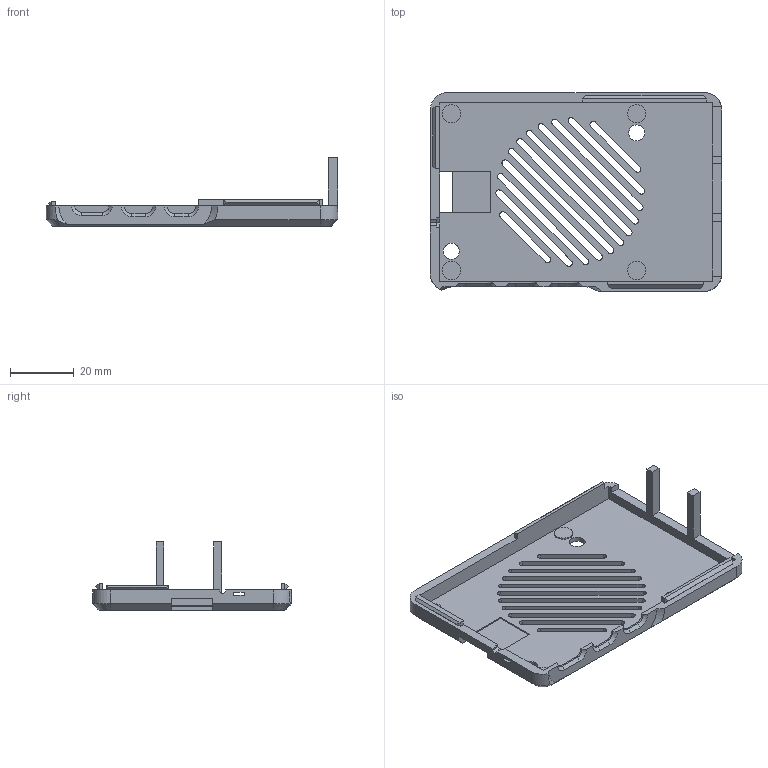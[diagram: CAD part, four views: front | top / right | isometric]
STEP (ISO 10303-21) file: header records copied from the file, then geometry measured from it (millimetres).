
FILE_DESCRIPTION(/* description */ (''),/* implementation_level */ '2;1');
FILE_NAME(/* name */ 'bottom.step',/* time_stamp */ '2024-12-01T04:39:27+07:00',/* author */ (''),/* organization */ (''),/* preprocessor_version */ 'ST-DEVELOPER v20',/* originating_system */ 'Autodesk Translation Framework v12.20.1.177',/* authorisation */ '');
FILE_SCHEMA (('AUTOMOTIVE_DESIGN { 1 0 10303 214 3 1 1 }'));
Length unit declared in the file: millimetre
Products named in the file (1): bottom
Bounding box: 91.2 x 62.2 x 21.32 mm (x, y, z)
Volume: 10269.5 mm3; surface area: 14125.7 mm2
Topology: 1 solids, 1 shells, 155 faces, 472 edges, 321 vertices
Faces by surface type: plane 105, bspline 22, cylinder 16, cone 12
Full cylindrical faces by diameter (mm): 5 x2, 5.8 x4
Entity records: 6135 total; most frequent: CARTESIAN_POINT 2097, ORIENTED_EDGE 944, DIRECTION 645, EDGE_CURVE 472, VERTEX_POINT 321, LINE 283, VECTOR 283, EDGE_LOOP 187
